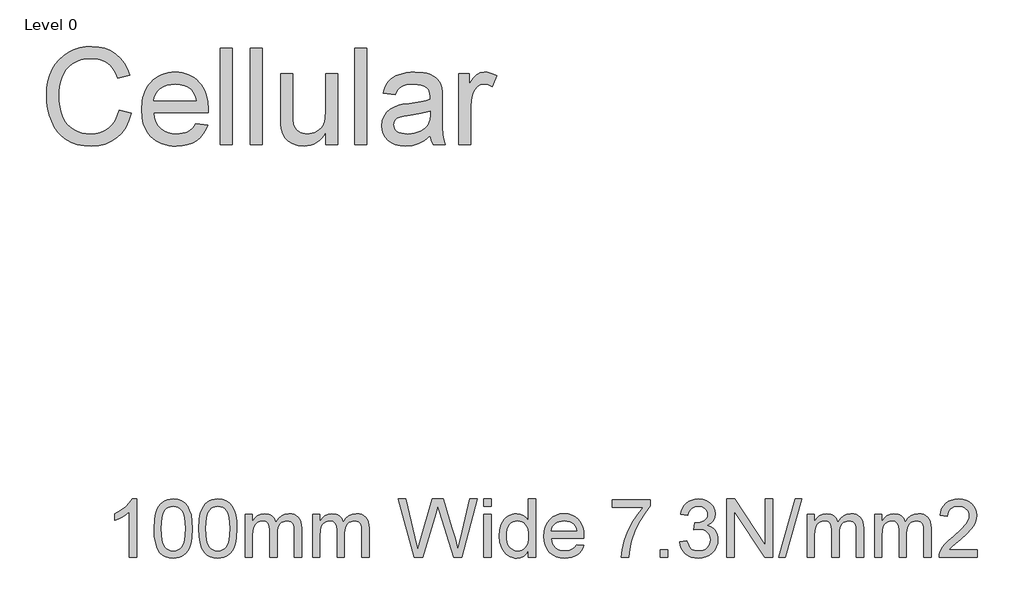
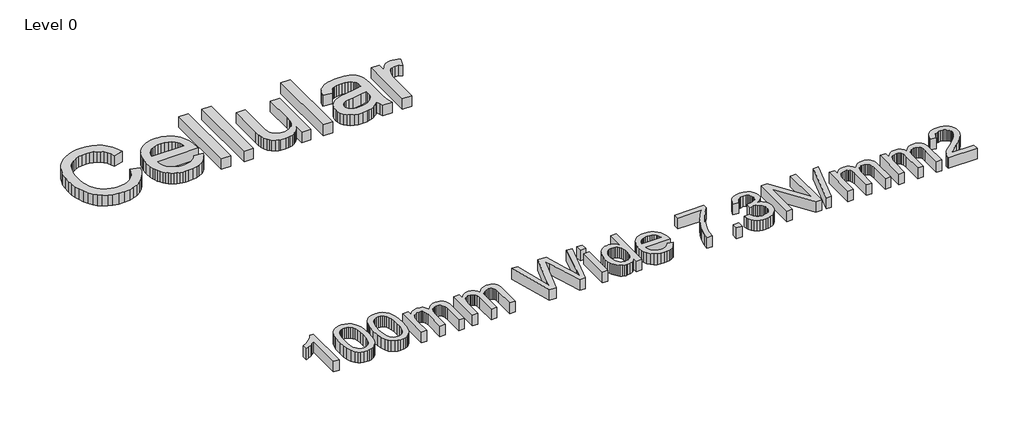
# One storey, part 14 of 14: 2 proxies.
"""IFC4 building model written with IfcOpenShell, lengths in millimetres."""

from ifc_helpers import new_model, si_unit, origin, origin_with_axes, place, context, project, spatial, polyline, outline, extrude, element, save

model = new_model("IFC4")

# Units and contexts
model_context = context("Model", 3, world=origin())
ifc_project = project(units=[si_unit("LENGTHUNIT", "METRE", prefix="MILLI")], contexts=[model_context])

# Site, building, storey
site = spatial("IfcSite", under=ifc_project)
building = spatial("IfcBuilding", under=site)
storey = spatial("IfcBuildingStorey", under=building, Name="Level 0", Elevation=0.0)

# Proxies
placement = place(None, origin())
element("IfcBuildingElementProxy", 1, Name="1000", ObjectType="1000", at=placement, inside=storey, context=model_context, shape_type="SweptSolid", body=[
    extrude(outline(polyline([(13044.4473279, 24916.4796352), (13166.8715703, 24884.9171352), (13142.6467538, 24808.783065), (13110.3818686, 24742.2582219), (13070.0769148, 24685.3426057), (13021.7318923, 24638.0362167), (12966.4377398, 24600.847163), (12905.2853961, 24574.2835533), (12838.2748611, 24558.3453875), (12765.4061347, 24553.0326655), (12690.7515567, 24557.0526998), (12623.4047735, 24569.1128028), (12563.3657849, 24589.2129745), (12510.6345912, 24617.3532148), (12464.4863904, 24653.1150815), (12424.1963809, 24696.0801324), (12389.7645628, 24746.2483675), (12361.1909359, 24803.6197867), (12338.751971, 24865.7136255), (12322.724139, 24930.0491191), (12313.1074398, 24996.6262676), (12309.9018734, 25065.4450708), (12313.525882, 25139.2851809), (12324.3979079, 25208.2534278), (12342.5179511, 25272.3498116), (12367.8860116, 25331.5743322), (12399.9342035, 25384.9481337), (12438.0946409, 25431.4923601), (12482.3673238, 25471.2070115), (12532.7522521, 25504.0920879), (12587.5382962, 25529.8785906), (12645.014326, 25548.2975211), (12705.1803416, 25559.3488794), (12768.0363431, 25563.0326655), (12838.0581678, 25558.2654129), (12902.2666343, 25543.9636551), (12960.6617426, 25520.1273921), (13013.2434927, 25486.7566239), (13059.1451114, 25444.733068), (13097.4998255, 25394.938442), (13128.3076351, 25337.372746), (13151.56854, 25272.0359799), (13029.1442976, 25242.8645784), (13009.8660661, 25291.007852), (12986.7022995, 25332.1422181), (12959.6529979, 25366.2676768), (12928.7181612, 25393.384228), (12893.7184572, 25414.0448134), (12854.4745533, 25428.8023743), (12810.9864496, 25437.6569109), (12763.2541461, 25440.6084231), (12708.3336028, 25437.335607), (12658.1055902, 25427.5171589), (12612.5701084, 25411.1530786), (12571.7271575, 25388.2433663), (12536.0923178, 25359.819183), (12506.1811702, 25326.9116901), (12481.9937146, 25289.5208876), (12463.529951, 25247.6467754), (12449.8782731, 25203.1872879), (12440.1270746, 25158.0403596), (12434.2763555, 25112.2059906), (12432.3261158, 25065.6841807), (12434.6350203, 25007.2218227), (12441.5617337, 24952.5852223), (12453.1062561, 24901.7743795), (12469.2685874, 24854.7892943), (12490.310254, 24812.5639895), (12516.4927825, 24776.032488), (12547.8161726, 24745.1947897), (12584.2804245, 24720.0508947), (12624.1146308, 24700.5410255), (12665.5478843, 24686.6054046), (12708.5801848, 24678.2440321), (12753.2115325, 24675.4569079), (12806.4358903, 24679.2527768), (12855.4011039, 24690.6403833), (12900.1071734, 24709.6197275), (12940.5540987, 24736.1908095), (12975.7854405, 24770.2340741), (13004.8447593, 24811.6299667), (13027.7320551, 24860.378487), (13044.4473279, 24916.4796352)])), origin_with_axes(), (0.0, 0.0, 1.0), 150.0),
    extrude(outline(polyline([(13823.4672143, 24782.5781201), (13943.5003582, 24767.2750898), (13925.0963721, 24719.1990659), (13900.2513644, 24676.8317896), (13868.9653351, 24640.1732609), (13831.2382843, 24609.2234799), (13787.4587655, 24584.6399986), (13738.0153322, 24567.0803691), (13682.9079843, 24556.5445914), (13622.1367218, 24553.0326655), (13583.1207195, 24554.5476506), (13546.1745119, 24559.0926057), (13511.2980988, 24566.667531), (13478.4914804, 24577.2724264), (13447.7546566, 24590.9072919), (13419.0876274, 24607.5721275), (13392.4903928, 24627.2669332), (13367.9629529, 24649.9917091), (13345.9386942, 24675.4513038), (13326.8510033, 24703.3505662), (13310.6998803, 24733.6894963), (13297.4853251, 24766.468094), (13287.2073377, 24801.6863594), (13279.8659181, 24839.3442925), (13273.9927825, 24921.9791617), (13279.9256956, 25007.4160995), (13287.341837, 25046.3349634), (13297.7244349, 25082.7207574), (13311.0734894, 25116.5734814), (13327.3890005, 25147.8931355), (13346.6709681, 25176.6797196), (13368.9193923, 25202.9332337), (13393.5327623, 25226.3585267), (13419.9095675, 25246.6604472), (13448.0498078, 25263.8389954), (13477.9534832, 25277.8941712), (13509.6205938, 25288.8259746), (13543.0511395, 25296.6344056), (13578.2451203, 25301.3194642), (13615.2025362, 25302.8811504), (13650.9513266, 25301.3232003), (13685.0300842, 25296.6493499), (13717.4388089, 25288.8595994), (13748.1775007, 25277.9539487), (13777.2461597, 25263.9323977), (13804.6447859, 25246.7949465), (13830.3733792, 25226.5415951), (13854.4319396, 25203.1723436), (13876.2040122, 25176.9786069), (13895.0731417, 25148.2518002), (13911.0393282, 25116.9919236), (13924.1025718, 25083.1989771), (13934.2628723, 25046.8729606), (13941.5202298, 25008.0138741), (13947.3261158, 24922.6964913), (13946.6087862, 24889.6993322), (13396.4170249, 24889.6993322), (13403.5081263, 24840.8462013), (13417.6081352, 24798.0604828), (13438.7170515, 24761.3421766), (13466.8348753, 24730.6912829), (13500.4073924, 24706.5262439), (13537.880389, 24689.2655017), (13579.253865, 24678.9090564), (13624.5278203, 24675.4569079), (13658.3917526, 24677.0559551), (13689.685254, 24681.8530964), (13718.4083246, 24689.848332), (13744.5609643, 24701.0416617), (13768.1431731, 24715.731973), (13789.154951, 24734.2181532), (13807.5962981, 24756.5002022), (13823.4672143, 24782.5781201)]), holes=[polyline([(13396.4170249, 25012.1235746), (13824.9018734, 25012.1235746), (13818.6102955, 25046.7646139), (13808.3435164, 25076.8027886), (13794.101536, 25102.2380988), (13775.8843544, 25123.0705443), (13742.4986418, 25148.1770784), (13704.5100646, 25166.110317), (13661.9186229, 25176.8702602), (13614.7243165, 25180.4569079), (13571.6770716, 25177.5950619), (13532.2015301, 25169.0095239), (13496.2976919, 25154.700294), (13463.9655571, 25134.667372), (13436.8340615, 25109.8373086), (13416.5321409, 25081.1366546), (13403.0597954, 25048.56541), (13396.4170249, 25012.1235746)])]), origin_with_axes(), (0.0, 0.0, 1.0), 150.0),
    extrude(outline(polyline([(14069.7503582, 24568.3356958), (14069.7503582, 25547.7296352), (14192.1746006, 25547.7296352), (14192.1746006, 24568.3356958), (14069.7503582, 24568.3356958)])), origin_with_axes(), (0.0, 0.0, 1.0), 150.0),
    extrude(outline(polyline([(14375.8109643, 24568.3356958), (14375.8109643, 25547.7296352), (14498.2352067, 25547.7296352), (14498.2352067, 24568.3356958), (14375.8109643, 24568.3356958)])), origin_with_axes(), (0.0, 0.0, 1.0), 150.0),
    extrude(outline(polyline([(15140.9624794, 24568.3356958), (15140.9624794, 24691.9554875), (15119.726536, 24659.3954511), (15096.66738, 24631.1767529), (15071.7850114, 24607.2993929), (15045.0794302, 24587.763371), (15016.5506364, 24572.5686874), (14986.19863, 24561.7153419), (14954.023411, 24555.2033346), (14920.0249794, 24553.0326655), (14860.396961, 24559.1299667), (14832.1296936, 24566.7515931), (14804.8935874, 24577.4218701), (14758.3269444, 24604.9195026), (14740.199429, 24620.99964), (14725.5091177, 24638.6339913), (14703.4213454, 24679.5815528), (14689.0448658, 24728.7784042), (14683.6648942, 24775.1657148), (14681.8715703, 24842.594692), (14681.8715703, 25287.5781201), (14804.2958128, 25287.5781201), (14804.2958128, 24900.2201655), (14806.1489141, 24822.7485746), (14811.7082181, 24775.4048246), (14819.0384294, 24753.3394689), (14829.5517905, 24733.7698222), (14843.2483015, 24716.6958846), (14860.1279624, 24702.1176561), (14879.6826647, 24690.4535788), (14901.4043, 24682.122095), (14925.2928683, 24677.1232047), (14951.3483696, 24675.4569079), (14978.1809779, 24677.1605656), (15004.1617574, 24682.2715386), (15029.290708, 24690.789827), (15053.5678298, 24702.7154307), (15075.6780186, 24717.5776022), (15094.3061702, 24734.905594), (15109.4522847, 24754.6994062), (15121.116362, 24776.9590386), (15129.7990384, 24803.1042061), (15136.0009501, 24834.5546234), (15140.9624794, 24913.3712072), (15140.9624794, 25287.5781201), (15263.3867218, 25287.5781201), (15263.3867218, 24568.3356958), (15140.9624794, 24568.3356958)])), origin_with_axes(), (0.0, 0.0, 1.0), 150.0),
    extrude(outline(polyline([(15431.7200552, 24568.3356958), (15431.7200552, 25547.7296352), (15554.1442976, 25547.7296352), (15554.1442976, 24568.3356958), (15431.7200552, 24568.3356958)])), origin_with_axes(), (0.0, 0.0, 1.0), 150.0),
    extrude(outline(polyline([(16196.8715703, 24660.1538776), (16167.8421403, 24632.9102993), (16138.3793236, 24610.0005869), (16108.4831204, 24591.4247406), (16078.1535306, 24577.1827602), (16047.0468337, 24566.6170938), (16014.8193094, 24559.0701892), (15947.0017787, 24553.0326655), (15892.4922054, 24556.6641463), (15844.6926522, 24567.5585888), (15803.6031192, 24585.7159929), (15769.2236063, 24611.1363587), (15742.0771663, 24642.2056946), (15722.6868521, 24677.3100093), (15711.0526635, 24716.4493026), (15707.1746006, 24759.6235746), (15713.0327919, 24810.37464), (15730.6073658, 24856.4630632), (15757.7164449, 24895.9161882), (15792.1781518, 24926.7613587), (15832.6773824, 24950.0745689), (15877.8990325, 24966.9318132), (15921.955022, 24976.3168748), (15983.8246953, 24985.3432716), (16108.998701, 25004.7111693), (16157.3287791, 25015.6504449), (16196.1542408, 25027.4266049), (16196.8715703, 25054.6851276), (16194.7644148, 25084.3646376), (16188.4429482, 25109.321728), (16177.9071705, 25129.5563989), (16163.1570817, 25145.0686504), (16137.6619941, 25160.5510131), (16106.6076025, 25171.6098436), (16069.993907, 25178.2451418), (16027.8209075, 25180.4569079), (15988.6068923, 25178.9848879), (15954.8924037, 25174.5688279), (15926.6774415, 25167.2087279), (15903.9620059, 25156.9045879), (15885.2964934, 25142.8494121), (15869.2313004, 25124.2362048), (15855.7664271, 25101.0649661), (15844.9018734, 25073.3356958), (15722.4776309, 25088.6387261), (15731.7954428, 25123.9074288), (15743.7285187, 25155.5894837), (15758.2768586, 25183.6848909), (15775.4404624, 25208.1936504), (15795.9590763, 25229.6089262), (15820.5724463, 25248.4238824), (15849.2805725, 25264.638519), (15882.0834548, 25278.252836), (15918.316069, 25289.0277235), (15957.3133909, 25296.7240718), (15999.0754204, 25301.3418807), (16043.6021575, 25302.8811504), (16126.3640538, 25297.4414013), (16161.3114526, 25290.641715), (16191.9698184, 25281.1221542), (16241.4356683, 25256.583506), (16260.4972066, 25242.2294429), (16275.7778203, 25226.4855538), (16298.5530334, 25189.2740836), (16313.3180665, 25143.3948814), (16317.8013762, 25101.0724382), (16319.2958128, 25036.2736693), (16319.2958128, 24883.9606958), (16320.8500268, 24751.2846186), (16325.5126688, 24671.2724856), (16334.718398, 24618.6982077), (16349.9018734, 24568.3356958), (16227.4776309, 24568.3356958), (16207.8706234, 24610.8972489), (16196.8715703, 24660.1538776)]), holes=[polyline([(16196.8715703, 24905.0023625), (16114.6177825, 24884.6182479), (15999.3668355, 24867.4621163), (15935.853282, 24858.0770547), (15894.0389472, 24847.6159989), (15866.6309808, 24834.046515), (15846.3365325, 24815.3361693), (15833.7832654, 24792.919621), (15829.5988431, 24768.2315292), (15831.8778588, 24749.2073518), (15838.714906, 24731.8270547), (15850.1099847, 24716.0906378), (15866.063095, 24701.9981011), (15886.424793, 24690.3863291), (15911.0456352, 24682.0922062), (15939.9256216, 24677.1157325), (15973.0647521, 24675.4569079), (16006.8987957, 24677.2875927), (16038.8199605, 24682.7796471), (16068.8282465, 24691.9330709), (16096.9236537, 24704.7478644), (16122.2692976, 24720.1629774), (16144.0282938, 24737.1173601), (16162.2006423, 24755.6110125), (16176.7863431, 24775.6439345), (16185.2597983, 24793.5771731), (16191.3122664, 24815.3361693), (16196.1542408, 24870.3314345), (16196.8715703, 24905.0023625)])]), origin_with_axes(), (0.0, 0.0, 1.0), 150.0),
    extrude(outline(polyline([(16487.6291461, 24568.3356958), (16487.6291461, 25287.5781201), (16594.7503582, 25287.5781201), (16594.7503582, 25181.1742375), (16634.3230381, 25242.8645784), (16652.9437176, 25264.2051324), (16670.78729, 25279.2092754), (16707.3710968, 25296.9631816), (16747.3024415, 25302.8811504), (16777.6693923, 25300.5199406), (16808.2754529, 25293.4363114), (16839.1206234, 25281.6302626), (16870.2049037, 25265.1017943), (16829.3171196, 25155.3503739), (16786.2773468, 25174.1802744), (16743.2375741, 25180.4569079), (16706.683656, 25174.4193843), (16674.015273, 25156.3068132), (16647.6235235, 25127.4940765), (16629.8995059, 25089.3560557), (16615.0149179, 25020.970639), (16610.0533885, 24946.3683663), (16610.0533885, 24568.3356958), (16487.6291461, 24568.3356958)])), origin_with_axes(), (0.0, 0.0, 1.0), 150.0),
])
element("IfcBuildingElementProxy", 2, Name="600mm Arial", ObjectType="600mm Arial", at=placement, inside=storey, context=model_context, shape_type="SweptSolid", body=[
    extrude(outline(polyline([(13224.2307256, 20381.8982215), (13150.3845718, 20381.8982215), (13150.3845718, 20842.2828369), (13119.5552448, 20817.3489426), (13080.4326487, 20792.4511061), (13039.3629372, 20770.6902888), (13002.6922641, 20755.1674523), (13002.6922641, 20824.9751446), (13060.6910622, 20856.5256253), (13110.9374564, 20894.061683), (13150.5468314, 20933.9775484), (13176.6345718, 20972.6674523), (13224.2307256, 20972.6674523), (13224.2307256, 20381.8982215)])), origin_with_axes(), (0.0, 0.0, 1.0), 150.0),
    extrude(outline(polyline([(13399.615341, 20672.5232215), (13405.0420237, 20767.0845196), (13411.8253771, 20807.1851806), (13421.3220718, 20842.499183), (13433.4915429, 20873.3149883), (13448.2932256, 20899.921058), (13465.7271198, 20922.3173922), (13485.7932256, 20940.5039907), (13508.5591511, 20954.5755051), (13534.0925045, 20964.6265869), (13562.3932857, 20970.6572359), (13593.4614948, 20972.6674523), (13638.9663025, 20967.9078369), (13679.7114948, 20953.6289907), (13713.7860141, 20930.389808), (13739.2788025, 20898.749183), (13758.5336102, 20858.9775484), (13773.8941872, 20811.3453369), (13783.9542833, 20750.858558), (13787.3076487, 20672.5232215), (13781.9350525, 20578.5027888), (13775.2193073, 20538.5373441), (13765.8172641, 20503.2684138), (13753.7424444, 20472.4390869), (13739.0083698, 20445.7924523), (13721.6150405, 20423.32851), (13701.5624564, 20405.04726), (13678.7694876, 20390.8810941), (13653.1550045, 20380.7624042), (13624.7190069, 20374.6911902), (13593.4614948, 20372.6674523), (13552.7884179, 20376.1830773), (13516.7307256, 20386.7299523), (13485.2884179, 20404.3080773), (13458.4614948, 20428.9174523), (13432.7163025, 20473.4036301), (13414.3268795, 20528.8333176), (13403.2932256, 20595.2065148), (13399.615341, 20672.5232215)]), holes=[polyline([(13473.4614948, 20672.6674523), (13475.6249564, 20608.4712383), (13482.115341, 20556.5075965), (13492.9326487, 20516.7765268), (13508.0768795, 20489.2780292), (13526.3941872, 20470.5685941), (13546.7307256, 20457.2047119), (13569.0864948, 20449.1863825), (13593.4614948, 20446.5136061), (13617.8364948, 20449.195397), (13640.1922641, 20457.2407696), (13660.5288025, 20470.6497239), (13678.8461102, 20489.42226), (13693.990341, 20516.9658297), (13704.8076487, 20556.687885), (13711.2980333, 20608.5884258), (13713.4614948, 20672.6674523), (13711.3701487, 20735.1644475), (13705.0961102, 20786.2131253), (13694.6393795, 20825.8134859), (13679.9999564, 20853.9655292), (13661.9891391, 20873.5899282), (13641.4182256, 20887.6073561), (13618.287216, 20896.0178128), (13592.5961102, 20898.8212984), (13568.3473122, 20896.3513465), (13546.3701487, 20888.9414907), (13526.6646198, 20876.5917311), (13509.2307256, 20859.3020676), (13493.5816872, 20828.6530292), (13482.4038025, 20787.3309138), (13475.6970718, 20735.3357215), (13473.4614948, 20672.6674523)])]), origin_with_axes(), (0.0, 0.0, 1.0), 150.0),
    extrude(outline(polyline([(13851.9230333, 20672.5232215), (13857.349716, 20767.0845196), (13864.1330694, 20807.1851806), (13873.6297641, 20842.499183), (13885.7992352, 20873.3149883), (13900.6009179, 20899.921058), (13918.0348122, 20922.3173922), (13938.1009179, 20940.5039907), (13960.8668434, 20954.5755051), (13986.4001968, 20964.6265869), (14014.700978, 20970.6572359), (14045.7691872, 20972.6674523), (14091.2739948, 20967.9078369), (14132.0191872, 20953.6289907), (14166.0937064, 20930.389808), (14191.5864948, 20898.749183), (14210.8413025, 20858.9775484), (14226.2018795, 20811.3453369), (14236.2619756, 20750.858558), (14239.615341, 20672.5232215), (14234.2427448, 20578.5027888), (14227.5269997, 20538.5373441), (14218.1249564, 20503.2684138), (14206.0501367, 20472.4390869), (14191.3160622, 20445.7924523), (14173.9227328, 20423.32851), (14153.8701487, 20405.04726), (14131.0771799, 20390.8810941), (14105.4626968, 20380.7624042), (14077.0266992, 20374.6911902), (14045.7691872, 20372.6674523), (14005.0961102, 20376.1830773), (13969.0384179, 20386.7299523), (13937.5961102, 20404.3080773), (13910.7691872, 20428.9174523), (13885.0239948, 20473.4036301), (13866.6345718, 20528.8333176), (13855.6009179, 20595.2065148), (13851.9230333, 20672.5232215)]), holes=[polyline([(13925.7691872, 20672.6674523), (13927.9326487, 20608.4712383), (13934.4230333, 20556.5075965), (13945.240341, 20516.7765268), (13960.3845718, 20489.2780292), (13978.7018795, 20470.5685941), (13999.0384179, 20457.2047119), (14021.3941872, 20449.1863825), (14045.7691872, 20446.5136061), (14070.1441872, 20449.195397), (14092.4999564, 20457.2407696), (14112.8364948, 20470.6497239), (14131.1538025, 20489.42226), (14146.2980333, 20516.9658297), (14157.115341, 20556.687885), (14163.6057256, 20608.5884258), (14165.7691872, 20672.6674523), (14163.677841, 20735.1644475), (14157.4038025, 20786.2131253), (14146.9470718, 20825.8134859), (14132.3076487, 20853.9655292), (14114.2968314, 20873.5899282), (14093.7259179, 20887.6073561), (14070.5949083, 20896.0178128), (14044.9038025, 20898.8212984), (14020.6550045, 20896.3513465), (13998.677841, 20888.9414907), (13978.9723122, 20876.5917311), (13961.5384179, 20859.3020676), (13945.8893795, 20828.6530292), (13934.7114948, 20787.3309138), (13928.0047641, 20735.3357215), (13925.7691872, 20672.6674523)])]), origin_with_axes(), (0.0, 0.0, 1.0), 150.0),
    extrude(outline(polyline([(14322.6922641, 20381.8982215), (14322.6922641, 20815.7443753), (14396.5384179, 20815.7443753), (14396.5384179, 20744.3501446), (14418.7499564, 20777.1446157), (14447.3076487, 20802.8357215), (14481.2379372, 20819.4402888), (14519.5672641, 20824.9751446), (14560.6369756, 20819.3321157), (14578.115942, 20812.2783297), (14593.5576487, 20802.4030292), (14618.1489948, 20775.3056734), (14634.2307256, 20739.1578369), (14661.1477929, 20776.702909), (14691.8509179, 20803.5208176), (14726.3401006, 20819.6115628), (14764.615341, 20824.9751446), (14794.1781415, 20822.7440749), (14820.1261583, 20816.0508657), (14842.4593915, 20804.8955172), (14861.177841, 20789.2780292), (14875.9750165, 20769.0181133), (14886.5444275, 20743.9354811), (14892.8860742, 20714.0301325), (14894.9999564, 20679.3020676), (14894.9999564, 20381.8982215), (14821.1538025, 20381.8982215), (14821.1538025, 20647.5712984), (14819.4410622, 20684.4042311), (14814.302841, 20709.2299523), (14804.6754372, 20726.2311542), (14789.4951487, 20739.5905292), (14769.9699083, 20748.2443753), (14747.3076487, 20751.1289907), (14726.3806655, 20749.281034), (14707.3016391, 20743.7371638), (14690.0705694, 20734.4973801), (14674.6874564, 20721.561683), (14662.0357136, 20704.5514667), (14652.9987545, 20683.0881253), (14647.576579, 20657.171659), (14645.7691872, 20626.8020676), (14645.7691872, 20381.8982215), (14571.9230333, 20381.8982215), (14571.9230333, 20655.7924523), (14567.6501968, 20697.54726), (14554.8316872, 20727.3309138), (14544.920329, 20737.7425725), (14532.2776006, 20745.1794715), (14516.9035021, 20749.6416109), (14498.7980333, 20751.1289907), (14470.3485141, 20747.1626446), (14444.1345718, 20735.2636061), (14422.4999564, 20715.7203369), (14407.7884179, 20688.8212984), (14399.3509179, 20651.5015869), (14396.5384179, 20600.6962984), (14396.5384179, 20381.8982215), (14322.6922641, 20381.8982215)])), origin_with_axes(), (0.0, 0.0, 1.0), 150.0),
    extrude(outline(polyline([(15005.7691872, 20381.8982215), (15005.7691872, 20815.7443753), (15079.615341, 20815.7443753), (15079.615341, 20744.3501446), (15101.8268795, 20777.1446157), (15130.3845718, 20802.8357215), (15164.3148602, 20819.4402888), (15202.6441872, 20824.9751446), (15243.7138987, 20819.3321157), (15261.192865, 20812.2783297), (15276.6345718, 20802.4030292), (15301.2259179, 20775.3056734), (15317.3076487, 20739.1578369), (15344.224716, 20776.702909), (15374.927841, 20803.5208176), (15409.4170237, 20819.6115628), (15447.6922641, 20824.9751446), (15477.2550646, 20822.7440749), (15503.2030814, 20816.0508657), (15525.5363146, 20804.8955172), (15544.2547641, 20789.2780292), (15559.0519396, 20769.0181133), (15569.6213506, 20743.9354811), (15575.9629972, 20714.0301325), (15578.0768795, 20679.3020676), (15578.0768795, 20381.8982215), (15504.2307256, 20381.8982215), (15504.2307256, 20647.5712984), (15502.5179852, 20684.4042311), (15497.3797641, 20709.2299523), (15487.7523602, 20726.2311542), (15472.5720718, 20739.5905292), (15453.0468314, 20748.2443753), (15430.3845718, 20751.1289907), (15409.4575886, 20749.281034), (15390.3785622, 20743.7371638), (15373.1474924, 20734.4973801), (15357.7643795, 20721.561683), (15345.1126367, 20704.5514667), (15336.0756775, 20683.0881253), (15330.6535021, 20657.171659), (15328.8461102, 20626.8020676), (15328.8461102, 20381.8982215), (15254.9999564, 20381.8982215), (15254.9999564, 20655.7924523), (15250.7271198, 20697.54726), (15237.9086102, 20727.3309138), (15227.9972521, 20737.7425725), (15215.3545237, 20745.1794715), (15199.9804251, 20749.6416109), (15181.8749564, 20751.1289907), (15153.4254372, 20747.1626446), (15127.2114948, 20735.2636061), (15105.5768795, 20715.7203369), (15090.865341, 20688.8212984), (15082.427841, 20651.5015869), (15079.615341, 20600.6962984), (15079.615341, 20381.8982215), (15005.7691872, 20381.8982215)])), origin_with_axes(), (0.0, 0.0, 1.0), 150.0),
    extrude(outline(polyline([(16034.5672641, 20381.8982215), (15873.4614948, 20972.6674523), (15949.615341, 20972.6674523), (16043.0768795, 20584.3982215), (16071.9230333, 20464.5424523), (16102.7884179, 20570.5520676), (16219.9038025, 20972.6674523), (16329.6634179, 20972.6674523), (16414.7595718, 20681.1770676), (16451.2138987, 20573.0039907), (16478.0768795, 20464.5424523), (16506.0576487, 20580.936683), (16600.3845718, 20972.6674523), (16676.5384179, 20972.6674523), (16515.2884179, 20381.8982215), (16436.3941872, 20381.8982215), (16294.7595718, 20837.6674523), (16274.9999564, 20901.2732215), (16252.7884179, 20824.686683), (16123.7018795, 20381.8982215), (16034.5672641, 20381.8982215)])), origin_with_axes(), (0.0, 0.0, 1.0), 150.0),
    extrude(outline(polyline([(16741.1538025, 20381.8982215), (16741.1538025, 20815.7443753), (16814.9999564, 20815.7443753), (16814.9999564, 20381.8982215), (16741.1538025, 20381.8982215)])), origin_with_axes(), (0.0, 0.0, 1.0), 150.0),
    extrude(outline(polyline([(16741.1538025, 20898.8212984), (16741.1538025, 20972.6674523), (16814.9999564, 20972.6674523), (16814.9999564, 20898.8212984), (16741.1538025, 20898.8212984)])), origin_with_axes(), (0.0, 0.0, 1.0), 150.0),
    extrude(outline(polyline([(17193.4614948, 20381.8982215), (17193.4614948, 20451.561683), (17171.3671439, 20417.0454571), (17144.6033218, 20392.39101), (17113.1700285, 20377.5983417), (17077.0672641, 20372.6674523), (17052.6922641, 20374.452308), (17029.3268795, 20379.8068753), (17006.9711102, 20388.7311542), (16985.6249564, 20401.2251446), (16965.9554852, 20416.9147479), (16948.6297641, 20435.4258657), (16933.6477929, 20456.7584979), (16921.0095718, 20480.9126446), (16910.9765189, 20507.42857), (16903.8100525, 20535.8465388), (16898.0768795, 20598.3886061), (16903.3593314, 20660.155433), (16919.2066872, 20715.936683), (16931.0876968, 20740.7894475), (16945.6009179, 20762.5592792), (16962.7463506, 20781.2461782), (16982.5239948, 20796.8501446), (17004.2352328, 20809.1548321), (17027.1814468, 20817.9438946), (17051.3626367, 20823.2173321), (17076.7788025, 20824.9751446), (17112.9086102, 20819.9450965), (17144.8557256, 20804.8549523), (17171.9350525, 20781.7239426), (17193.4614948, 20752.5712984), (17193.4614948, 20972.6674523), (17267.3076487, 20972.6674523), (17267.3076487, 20381.8982215), (17193.4614948, 20381.8982215)]), holes=[polyline([(16971.9230333, 20598.6770676), (16974.005365, 20562.867272), (16980.2523602, 20531.8801926), (16990.6640189, 20505.7158297), (17005.240341, 20484.374183), (17022.647192, 20467.8101806), (17041.5504372, 20455.9787503), (17061.9500766, 20448.8798922), (17083.8461102, 20446.5136061), (17105.8458097, 20448.7717191), (17126.1237545, 20455.546058), (17144.6799444, 20466.8366229), (17161.5143795, 20482.6434138), (17175.4912424, 20503.0926325), (17185.474716, 20528.3104811), (17191.4648001, 20558.2969595), (17193.4614948, 20593.0520676), (17191.4287424, 20631.156034), (17185.3304852, 20663.8333176), (17175.1667232, 20691.0839186), (17160.9374564, 20712.9078369), (17143.7334299, 20729.6295917), (17124.6453891, 20741.5737023), (17103.6733338, 20748.7401686), (17080.8172641, 20751.1289907), (17058.4885381, 20748.83482), (17038.0888987, 20741.952308), (17019.6183458, 20730.4814547), (17003.0768795, 20714.42226), (16989.4470718, 20693.4231614), (16979.7114948, 20667.1325965), (16973.8701487, 20635.5505652), (16971.9230333, 20598.6770676)])]), origin_with_axes(), (0.0, 0.0, 1.0), 150.0),
    extrude(outline(polyline([(17681.8268795, 20511.1289907), (17754.2307256, 20501.8982215), (17743.1294636, 20472.8988225), (17728.1429852, 20447.342933), (17709.2712905, 20425.2305532), (17686.5143795, 20406.561683), (17660.1066271, 20391.7329571), (17630.2824083, 20381.14101), (17597.0417232, 20374.7858417), (17560.3845718, 20372.6674523), (17514.5642593, 20376.3228008), (17473.7379372, 20387.2888465), (17437.9056054, 20405.5655893), (17407.0672641, 20431.1530292), (17382.2685862, 20463.3390268), (17364.5552448, 20501.4114426), (17353.92724, 20545.3702768), (17350.3845718, 20595.2155292), (17353.9632977, 20646.7509859), (17364.6994756, 20692.1746638), (17382.5931054, 20731.4865628), (17407.6441872, 20764.686683), (17438.4013987, 20791.062885), (17473.4134179, 20809.9030292), (17512.6802448, 20821.2071157), (17556.2018795, 20824.9751446), (17598.3217713, 20821.2161301), (17636.412216, 20809.9390869), (17670.4732136, 20791.1440148), (17700.5047641, 20764.8309138), (17725.0194876, 20731.702909), (17742.5300045, 20692.4631253), (17753.0363146, 20647.1115628), (17756.5384179, 20595.6482215), (17756.1057256, 20575.7443753), (17424.2307256, 20575.7443753), (17428.5080694, 20546.2762263), (17437.0131775, 20520.467933), (17449.7460501, 20498.3194955), (17466.7066872, 20479.8309138), (17486.9575886, 20465.2545917), (17509.5612545, 20454.842933), (17534.5176847, 20448.5959378), (17561.8268795, 20446.5136061), (17601.1297641, 20450.3717792), (17634.2307256, 20461.9462984), (17661.1297641, 20481.9583176), (17681.8268795, 20511.1289907)]), holes=[polyline([(17424.2307256, 20649.5905292), (17682.6922641, 20649.5905292), (17672.7042833, 20688.6049523), (17664.1135381, 20703.9475003), (17653.1249564, 20716.5136061), (17632.9867352, 20731.6578369), (17610.0720718, 20742.4751446), (17584.380966, 20748.9655292), (17555.9134179, 20751.1289907), (17529.9473722, 20749.4027287), (17506.1357737, 20744.2239426), (17484.4786222, 20735.5926325), (17464.9759179, 20723.5087984), (17448.6102328, 20708.5313345), (17436.3641391, 20691.219135), (17428.2376367, 20671.5721999), (17424.2307256, 20649.5905292)])]), origin_with_axes(), (0.0, 0.0, 1.0), 150.0),
    extrude(outline(polyline([(18042.6922641, 20889.5905292), (18042.6922641, 20963.436683), (18430.3845718, 20963.436683), (18430.3845718, 20903.7251446), (18375.1261583, 20833.7912503), (18320.4086102, 20744.8549523), (18272.1453891, 20645.0292311), (18236.2499564, 20542.4270676), (18218.6538025, 20465.6602407), (18208.8461102, 20381.8982215), (18134.9999564, 20381.8982215), (18142.9867352, 20458.01601), (18164.3509179, 20548.48476), (18198.5155814, 20644.3801926), (18244.9038025, 20736.7780292), (18299.0624564, 20820.3056734), (18356.5384179, 20889.5905292), (18042.6922641, 20889.5905292)])), origin_with_axes(), (0.0, 0.0, 1.0), 150.0),
    extrude(outline(polyline([(18531.9230333, 20381.8982215), (18531.9230333, 20455.7443753), (18605.7691872, 20455.7443753), (18605.7691872, 20381.8982215), (18531.9230333, 20381.8982215)])), origin_with_axes(), (0.0, 0.0, 1.0), 150.0),
    extrude(outline(polyline([(18725.7691872, 20538.8212984), (18799.615341, 20548.0520676), (18816.1477929, 20501.6458176), (18827.2941271, 20484.0947359), (18840.3605333, 20470.311683), (18855.6444876, 20459.9000244), (18873.443466, 20452.4631253), (18893.7574684, 20448.0009859), (18916.5864948, 20446.5136061), (18943.3413025, 20448.5598801), (18967.2114948, 20454.6987023), (18988.1970718, 20464.9300725), (19006.2980333, 20479.2539907), (19020.8743554, 20496.5977407), (19031.2860141, 20515.8886061), (19037.5330093, 20537.1265869), (19039.615341, 20560.311683), (19037.5510381, 20582.3925124), (19031.3581295, 20602.4811542), (19021.036615, 20620.5776085), (19006.5864948, 20636.6818753), (18988.9542833, 20649.9015268), (18969.0864948, 20659.344135), (18946.9831295, 20665.0096999), (18922.6441872, 20666.8982215), (18899.3148602, 20664.8789907), (18870.865341, 20658.8212984), (18879.0864948, 20732.6674523), (18890.9134179, 20731.8020676), (18935.1562064, 20737.1025484), (18974.7114948, 20753.0039907), (18990.9915429, 20765.0292311), (19002.6201487, 20779.9030292), (19009.5973122, 20797.625385), (19011.9230333, 20818.1962984), (19010.2373362, 20834.8955172), (19005.1802448, 20850.0893273), (18996.7517593, 20863.7777287), (18984.9518795, 20875.9607215), (18970.4927448, 20885.9622239), (18954.0864948, 20893.1061542), (18915.4326487, 20898.8212984), (18876.7066872, 20893.0520676), (18859.9939468, 20885.8405292), (18845.0480333, 20875.7443753), (18832.2385381, 20862.7636061), (18821.9350525, 20846.8982215), (18814.1375766, 20828.1482215), (18808.8461102, 20806.5136061), (18734.9999564, 20815.7443753), (18743.7529612, 20850.999784), (18756.7427448, 20882.0544715), (18773.9693073, 20908.9084378), (18795.4326487, 20931.561683), (18820.4566872, 20949.5454571), (18848.365341, 20962.39101), (18879.1586102, 20970.0983417), (18912.8364948, 20972.6674523), (18959.2607737, 20967.6013465), (19001.8989948, 20952.4030292), (19037.8485141, 20928.4246638), (19064.2066872, 20897.0184138), (19080.3785622, 20860.8345196), (19085.7691872, 20822.5232215), (19080.6489948, 20786.8261061), (19065.2884179, 20754.4462984), (19039.9038025, 20726.8621638), (19004.7114948, 20705.5520676), (19029.3208698, 20697.8537503), (19050.9374564, 20686.874183), (19069.5612545, 20672.6133657), (19085.1922641, 20655.0712984), (19097.5600525, 20634.6806734), (19106.3941872, 20611.874183), (19111.6946679, 20586.6518273), (19113.4614948, 20559.0136061), (19109.927841, 20521.5496638), (19099.3268795, 20487.0424523), (19081.6586102, 20455.4919715), (19056.9230333, 20426.8982215), (19026.787817, 20403.17226), (18992.9206295, 20386.2251446), (18955.3214708, 20376.0568753), (18913.990341, 20372.6674523), (18876.6345718, 20375.5610821), (18842.5961102, 20384.2419715), (18811.8749564, 20398.7101205), (18784.4711102, 20418.9655292), (18761.4933458, 20443.8182936), (18744.0504372, 20472.07851), (18732.1423843, 20503.7461782), (18725.7691872, 20538.8212984)])), origin_with_axes(), (0.0, 0.0, 1.0), 150.0),
    extrude(outline(polyline([(19205.7691872, 20381.8982215), (19205.7691872, 20972.6674523), (19284.8076487, 20972.6674523), (19593.4614948, 20504.6386061), (19593.4614948, 20972.6674523), (19667.3076487, 20972.6674523), (19667.3076487, 20381.8982215), (19588.2691872, 20381.8982215), (19279.615341, 20850.0712984), (19279.615341, 20381.8982215), (19205.7691872, 20381.8982215)])), origin_with_axes(), (0.0, 0.0, 1.0), 150.0),
    extrude(outline(polyline([(19731.9230333, 20381.8982215), (19898.0768795, 20972.6674523), (19964.7114948, 20972.6674523), (19798.5576487, 20381.8982215), (19731.9230333, 20381.8982215)])), origin_with_axes(), (0.0, 0.0, 1.0), 150.0),
    extrude(outline(polyline([(20018.0768795, 20381.8982215), (20018.0768795, 20815.7443753), (20091.9230333, 20815.7443753), (20091.9230333, 20744.3501446), (20114.1345718, 20777.1446157), (20142.6922641, 20802.8357215), (20176.6225525, 20819.4402888), (20214.9518795, 20824.9751446), (20256.021591, 20819.3321157), (20273.5005573, 20812.2783297), (20288.9422641, 20802.4030292), (20313.5336102, 20775.3056734), (20329.615341, 20739.1578369), (20356.5324083, 20776.702909), (20387.2355333, 20803.5208176), (20421.724716, 20819.6115628), (20459.9999564, 20824.9751446), (20489.5627569, 20822.7440749), (20515.5107737, 20816.0508657), (20537.8440069, 20804.8955172), (20556.5624564, 20789.2780292), (20571.3596319, 20769.0181133), (20581.9290429, 20743.9354811), (20588.2706896, 20714.0301325), (20590.3845718, 20679.3020676), (20590.3845718, 20381.8982215), (20516.5384179, 20381.8982215), (20516.5384179, 20647.5712984), (20514.8256775, 20684.4042311), (20509.6874564, 20709.2299523), (20500.0600525, 20726.2311542), (20484.8797641, 20739.5905292), (20465.3545237, 20748.2443753), (20442.6922641, 20751.1289907), (20421.7652809, 20749.281034), (20402.6862545, 20743.7371638), (20385.4551847, 20734.4973801), (20370.0720718, 20721.561683), (20357.420329, 20704.5514667), (20348.3833698, 20683.0881253), (20342.9611944, 20657.171659), (20341.1538025, 20626.8020676), (20341.1538025, 20381.8982215), (20267.3076487, 20381.8982215), (20267.3076487, 20655.7924523), (20263.0348122, 20697.54726), (20250.2163025, 20727.3309138), (20240.3049444, 20737.7425725), (20227.662216, 20745.1794715), (20212.2881174, 20749.6416109), (20194.1826487, 20751.1289907), (20165.7331295, 20747.1626446), (20139.5191872, 20735.2636061), (20117.8845718, 20715.7203369), (20103.1730333, 20688.8212984), (20094.7355333, 20651.5015869), (20091.9230333, 20600.6962984), (20091.9230333, 20381.8982215), (20018.0768795, 20381.8982215)])), origin_with_axes(), (0.0, 0.0, 1.0), 150.0),
    extrude(outline(polyline([(20701.1538025, 20381.8982215), (20701.1538025, 20815.7443753), (20774.9999564, 20815.7443753), (20774.9999564, 20744.3501446), (20797.2114948, 20777.1446157), (20825.7691872, 20802.8357215), (20859.6994756, 20819.4402888), (20898.0288025, 20824.9751446), (20939.0985141, 20819.3321157), (20956.5774804, 20812.2783297), (20972.0191872, 20802.4030292), (20996.6105333, 20775.3056734), (21012.6922641, 20739.1578369), (21039.6093314, 20776.702909), (21070.3124564, 20803.5208176), (21104.8016391, 20819.6115628), (21143.0768795, 20824.9751446), (21172.6396799, 20822.7440749), (21198.5876968, 20816.0508657), (21220.9209299, 20804.8955172), (21239.6393795, 20789.2780292), (21254.4365549, 20769.0181133), (21265.005966, 20743.9354811), (21271.3476126, 20714.0301325), (21273.4614948, 20679.3020676), (21273.4614948, 20381.8982215), (21199.615341, 20381.8982215), (21199.615341, 20647.5712984), (21197.9026006, 20684.4042311), (21192.7643795, 20709.2299523), (21183.1369756, 20726.2311542), (21167.9566872, 20739.5905292), (21148.4314468, 20748.2443753), (21125.7691872, 20751.1289907), (21104.842204, 20749.281034), (21085.7631775, 20743.7371638), (21068.5321078, 20734.4973801), (21053.1489948, 20721.561683), (21040.4972521, 20704.5514667), (21031.4602929, 20683.0881253), (21026.0381174, 20657.171659), (21024.2307256, 20626.8020676), (21024.2307256, 20381.8982215), (20950.3845718, 20381.8982215), (20950.3845718, 20655.7924523), (20946.1117352, 20697.54726), (20933.2932256, 20727.3309138), (20923.3818674, 20737.7425725), (20910.7391391, 20745.1794715), (20895.3650405, 20749.6416109), (20877.2595718, 20751.1289907), (20848.8100525, 20747.1626446), (20822.5961102, 20735.2636061), (20800.9614948, 20715.7203369), (20786.2499564, 20688.8212984), (20777.8124564, 20651.5015869), (20774.9999564, 20600.6962984), (20774.9999564, 20381.8982215), (20701.1538025, 20381.8982215)])), origin_with_axes(), (0.0, 0.0, 1.0), 150.0),
    extrude(outline(polyline([(21744.2307256, 20455.7443753), (21744.2307256, 20381.8982215), (21356.5384179, 20381.8982215), (21358.1610141, 20407.8958176), (21364.4711102, 20432.811683), (21382.6802448, 20472.6013465), (21409.3268795, 20511.2011061), (21447.8725525, 20551.6037503), (21501.7788025, 20596.8020676), (21581.4663025, 20667.5833176), (21629.2788025, 20719.8309138), (21643.224115, 20741.1770676), (21653.1850525, 20762.23476), (21659.161615, 20783.0039907), (21661.1538025, 20803.48476), (21659.2742953, 20822.7530893), (21653.6357737, 20840.4619234), (21644.2382376, 20856.6112624), (21631.0816872, 20871.2011061), (21614.8962905, 20883.2849402), (21596.412216, 20891.9162503), (21575.6294636, 20897.0950364), (21552.5480333, 20898.8212984), (21528.2316271, 20897.1356013), (21506.4843314, 20892.07851), (21487.3061463, 20883.6500244), (21470.6970718, 20871.8501446), (21457.2610742, 20857.0755051), (21447.6021198, 20839.7227407), (21441.7202088, 20819.7918513), (21439.615341, 20797.2828369), (21365.7691872, 20806.5136061), (21372.1198482, 20844.6356013), (21383.6718314, 20877.9438946), (21400.4251367, 20906.4384859), (21422.3797641, 20930.1193753), (21449.0309059, 20948.734159), (21479.8737545, 20962.030433), (21514.9083097, 20970.0081975), (21554.1345718, 20972.6674523), (21593.7123963, 20969.7107215), (21628.9362545, 20960.8405292), (21659.8061463, 20946.0568753), (21686.3220718, 20925.35976), (21707.6186463, 20900.281635), (21722.8304852, 20872.3549523), (21731.9575886, 20841.5797119), (21734.9999564, 20807.9559138), (21731.7187064, 20772.6374042), (21721.8749564, 20737.9318753), (21704.4050045, 20702.6313946), (21678.2451487, 20665.5280292), (21636.5444275, 20621.2311542), (21572.4518795, 20564.3501446), (21487.4999564, 20493.3164907), (21454.1826487, 20455.7443753), (21744.2307256, 20455.7443753)])), origin_with_axes(), (0.0, 0.0, 1.0), 150.0),
])

save(model, "model.ifc")
